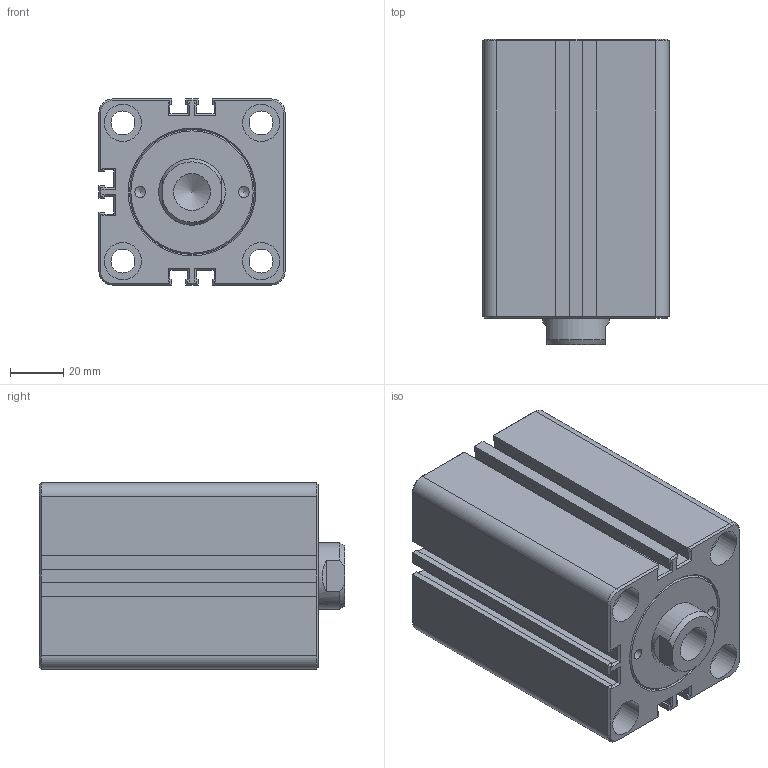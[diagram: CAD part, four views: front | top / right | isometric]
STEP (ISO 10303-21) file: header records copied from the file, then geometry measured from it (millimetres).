
FILE_DESCRIPTION(/* description */ ('Unknown'),/* implementation_level */ '2;1');
FILE_NAME(/* name */ 'HTM70-SD40X50N',/* time_stamp */ '2022-08-31T02:47:23+08:00',/* author */ ('Unknown'),/* organization */ ('Unknown'),/* preprocessor_version */ 'ST-DEVELOPER v16.7',/* originating_system */ 'DEX',/* authorisation */ $);
FILE_SCHEMA (('AUTOMOTIVE_DESIGN {1 0 10303 214 3 1 1}'));
Length unit declared in the file: millimetre
Products named in the file (1): HTM70-SD40X50N
Bounding box: 70 x 115 x 70 mm (x, y, z)
Volume: 455748.3 mm3; surface area: 61504.4 mm2
Topology: 1 solids, 1 shells, 235 faces, 540 edges, 321 vertices
Faces by surface type: plane 176, cone 24, cylinder 23, bspline 12
Full cylindrical faces by diameter (mm): 4.1 x2, 6 x1, 9 x4, 12.301 x2, 13.835 x1, 14 x8, 25 x1
Entity records: 7999 total; most frequent: CARTESIAN_POINT 1283, ORIENTED_EDGE 1002, DIRECTION 992, EDGE_CURVE 501, LINE 390, VECTOR 390, VERTEX_POINT 312, AXIS2_PLACEMENT_3D 301
